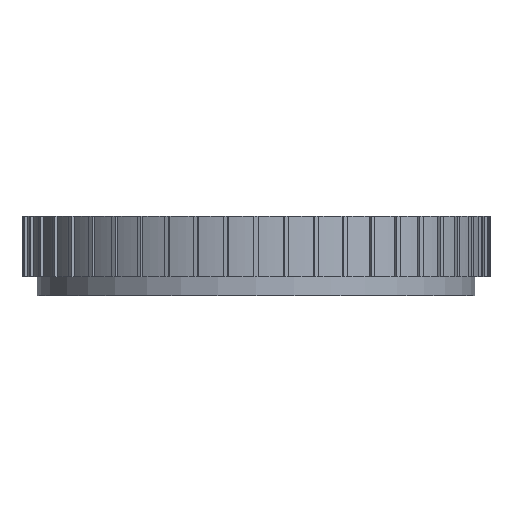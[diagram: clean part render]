
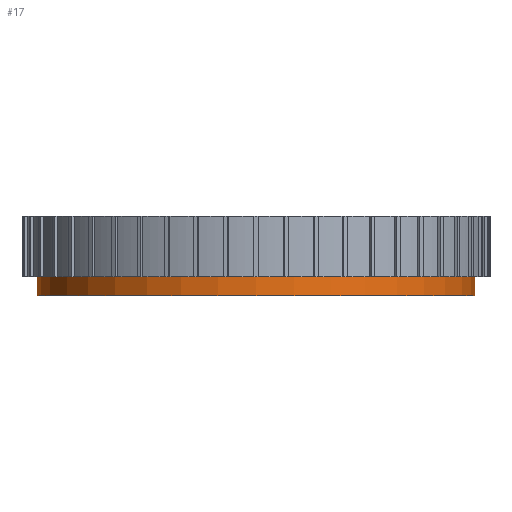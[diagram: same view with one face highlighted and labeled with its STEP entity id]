
A CAD part, front view. The second image highlights one B-rep face of the part: STEP entity #17.
In plain terms, the highlighted cylindrical face has radius 28.8 mm (diameter 57.6 mm), a full revolution.
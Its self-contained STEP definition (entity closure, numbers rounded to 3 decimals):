
#17 = ADVANCED_FACE('',(#18),#32,.T.);
#18 = FACE_BOUND('',#19,.F.);
#19 = EDGE_LOOP('',(#20,#50,#77,#78));
#20 = ORIENTED_EDGE('',*,*,#21,.T.);
#21 = EDGE_CURVE('',#22,#24,#26,.T.);
#22 = VERTEX_POINT('',#23);
#23 = CARTESIAN_POINT('',(28.8,0.,8.6));
#24 = VERTEX_POINT('',#25);
#25 = CARTESIAN_POINT('',(28.8,0.,6.1));
#26 = SEAM_CURVE('',#27,(#31,#43),.PCURVE_S1.);
#27 = LINE('',#28,#29);
#28 = CARTESIAN_POINT('',(28.8,0.,15.3));
#29 = VECTOR('',#30,1.);
#30 = DIRECTION('',(0.,0.,-1.));
#31 = PCURVE('',#32,#37);
#32 = CYLINDRICAL_SURFACE('',#33,28.8);
#33 = AXIS2_PLACEMENT_3D('',#34,#35,#36);
#34 = CARTESIAN_POINT('',(0.,0.,6.1));
#35 = DIRECTION('',(-0.,-0.,-1.));
#36 = DIRECTION('',(1.,0.,0.));
#37 = DEFINITIONAL_REPRESENTATION('',(#38),#42);
#38 = LINE('',#39,#40);
#39 = CARTESIAN_POINT('',(-6.283,-9.2));
#40 = VECTOR('',#41,1.);
#41 = DIRECTION('',(0.,1.));
#42 = ( GEOMETRIC_REPRESENTATION_CONTEXT(2) 
PARAMETRIC_REPRESENTATION_CONTEXT() REPRESENTATION_CONTEXT('2D SPACE',''
  ) );
#43 = PCURVE('',#32,#44);
#44 = DEFINITIONAL_REPRESENTATION('',(#45),#49);
#45 = LINE('',#46,#47);
#46 = CARTESIAN_POINT('',(-0.,-9.2));
#47 = VECTOR('',#48,1.);
#48 = DIRECTION('',(0.,1.));
#49 = ( GEOMETRIC_REPRESENTATION_CONTEXT(2) 
PARAMETRIC_REPRESENTATION_CONTEXT() REPRESENTATION_CONTEXT('2D SPACE',''
  ) );
#50 = ORIENTED_EDGE('',*,*,#51,.F.);
#51 = EDGE_CURVE('',#24,#24,#52,.T.);
#52 = SURFACE_CURVE('',#53,(#58,#65),.PCURVE_S1.);
#53 = CIRCLE('',#54,28.8);
#54 = AXIS2_PLACEMENT_3D('',#55,#56,#57);
#55 = CARTESIAN_POINT('',(0.,0.,6.1));
#56 = DIRECTION('',(0.,0.,1.));
#57 = DIRECTION('',(1.,0.,0.));
#58 = PCURVE('',#32,#59);
#59 = DEFINITIONAL_REPRESENTATION('',(#60),#64);
#60 = LINE('',#61,#62);
#61 = CARTESIAN_POINT('',(-0.,0.));
#62 = VECTOR('',#63,1.);
#63 = DIRECTION('',(-1.,0.));
#64 = ( GEOMETRIC_REPRESENTATION_CONTEXT(2) 
PARAMETRIC_REPRESENTATION_CONTEXT() REPRESENTATION_CONTEXT('2D SPACE',''
  ) );
#65 = PCURVE('',#66,#71);
#66 = PLANE('',#67);
#67 = AXIS2_PLACEMENT_3D('',#68,#69,#70);
#68 = CARTESIAN_POINT('',(0.,0.,6.1));
#69 = DIRECTION('',(0.,0.,1.));
#70 = DIRECTION('',(1.,0.,-0.));
#71 = DEFINITIONAL_REPRESENTATION('',(#72),#76);
#72 = CIRCLE('',#73,28.8);
#73 = AXIS2_PLACEMENT_2D('',#74,#75);
#74 = CARTESIAN_POINT('',(0.,0.));
#75 = DIRECTION('',(1.,0.));
#76 = ( GEOMETRIC_REPRESENTATION_CONTEXT(2) 
PARAMETRIC_REPRESENTATION_CONTEXT() REPRESENTATION_CONTEXT('2D SPACE',''
  ) );
#77 = ORIENTED_EDGE('',*,*,#21,.F.);
#78 = ORIENTED_EDGE('',*,*,#79,.F.);
#79 = EDGE_CURVE('',#22,#22,#80,.T.);
#80 = SURFACE_CURVE('',#81,(#86,#93),.PCURVE_S1.);
#81 = CIRCLE('',#82,28.8);
#82 = AXIS2_PLACEMENT_3D('',#83,#84,#85);
#83 = CARTESIAN_POINT('',(0.,0.,8.6));
#84 = DIRECTION('',(0.,0.,-1.));
#85 = DIRECTION('',(1.,0.,0.));
#86 = PCURVE('',#32,#87);
#87 = DEFINITIONAL_REPRESENTATION('',(#88),#92);
#88 = LINE('',#89,#90);
#89 = CARTESIAN_POINT('',(-6.283,-2.5));
#90 = VECTOR('',#91,1.);
#91 = DIRECTION('',(1.,-0.));
#92 = ( GEOMETRIC_REPRESENTATION_CONTEXT(2) 
PARAMETRIC_REPRESENTATION_CONTEXT() REPRESENTATION_CONTEXT('2D SPACE',''
  ) );
#93 = PCURVE('',#94,#99);
#94 = PLANE('',#95);
#95 = AXIS2_PLACEMENT_3D('',#96,#97,#98);
#96 = CARTESIAN_POINT('',(30.1,-0.3,8.6));
#97 = DIRECTION('',(0.,0.,1.));
#98 = DIRECTION('',(1.,0.,0.));
#99 = DEFINITIONAL_REPRESENTATION('',(#100),#108);
#100 = ( BOUNDED_CURVE() B_SPLINE_CURVE(2,(#101,#102,#103,#104,#105,#106
,#107),.UNSPECIFIED.,.T.,.F.) B_SPLINE_CURVE_WITH_KNOTS((1,2,2,2,2,1),(
    -2.094,0.,2.094,4.189,6.283,
8.378),.UNSPECIFIED.) CURVE() GEOMETRIC_REPRESENTATION_ITEM() 
RATIONAL_B_SPLINE_CURVE((1.,0.5,1.,0.5,1.,0.5,1.)) REPRESENTATION_ITEM(
  '') );
#101 = CARTESIAN_POINT('',(-1.3,0.3));
#102 = CARTESIAN_POINT('',(-1.3,-49.583));
#103 = CARTESIAN_POINT('',(-44.5,-24.642));
#104 = CARTESIAN_POINT('',(-87.7,0.3));
#105 = CARTESIAN_POINT('',(-44.5,25.242));
#106 = CARTESIAN_POINT('',(-1.3,50.183));
#107 = CARTESIAN_POINT('',(-1.3,0.3));
#108 = ( GEOMETRIC_REPRESENTATION_CONTEXT(2) 
PARAMETRIC_REPRESENTATION_CONTEXT() REPRESENTATION_CONTEXT('2D SPACE',''
  ) );
